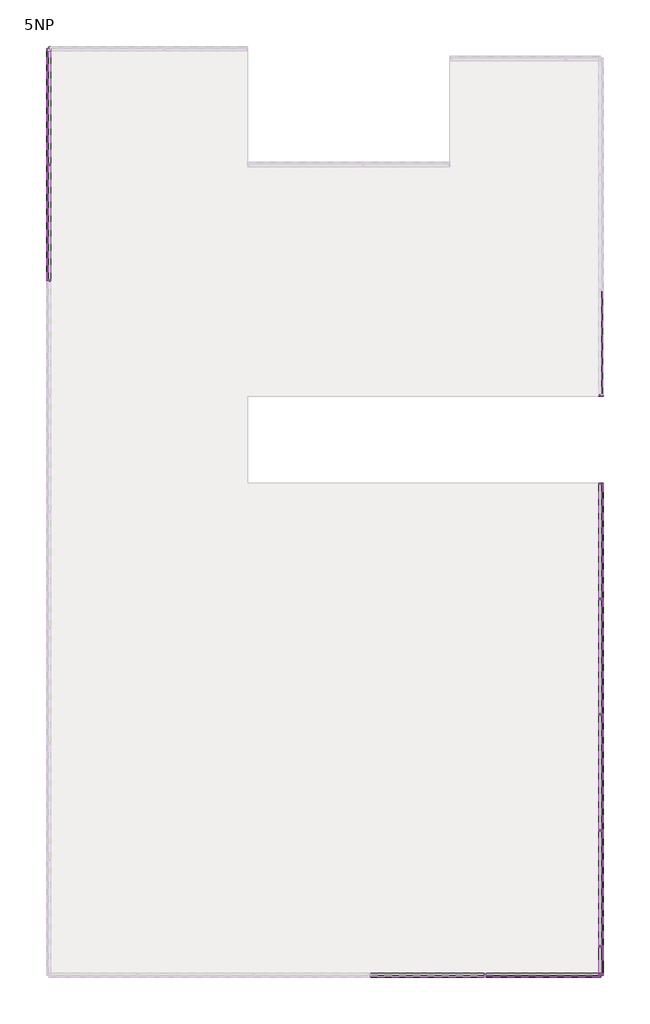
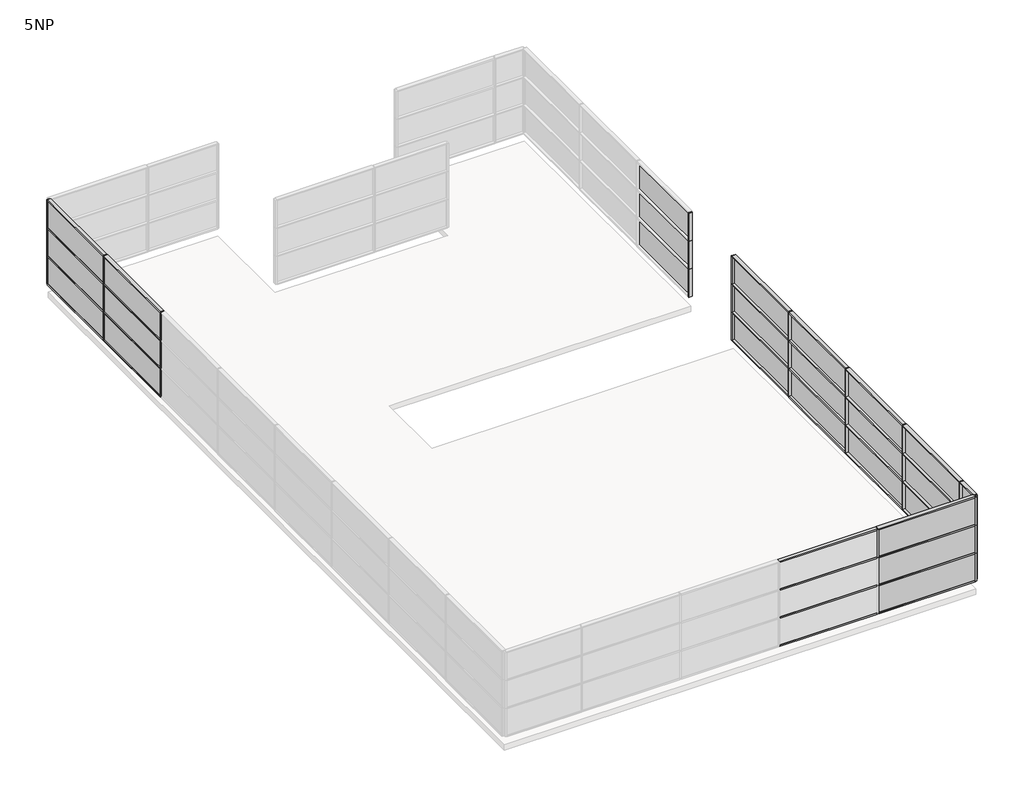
# One storey, part 2 of 3: 71 members, 27 plates.
"""IFC4 building model written with IfcOpenShell, lengths in millimetres."""

import ifcopenshell
import ifcopenshell.guid

model = None  # the IFC model being written
_history = None  # IfcOwnerHistory: only IFC2X3 demands one
_inside = {}  # id of a spatial element -> (the spatial element, [elements in it])
_under = {}  # id of a project, library or spatial element -> (it, [spatial elements below it])
_declared = {}  # id of a project -> (the project, [libraries it declares])
_typed = {}  # id of a type object -> (the type object, [elements of that type])
_made_of = {}  # id of a material, layer set ... -> (it, [elements and type objects made of it])


def new_model(schema):
    """Start an empty IFC model of exactly this schema.

    Asked for "IFC4X3", IfcOpenShell would pick the latest addendum, in which some entities
    have other attributes; the version numbers below select the first issue.
    IFC2X3 requires an IfcOwnerHistory on every rooted entity: one is made here for all.
    """
    global model, _history
    if schema == "IFC4X3":
        model = ifcopenshell.file(schema_version=(4, 3, 0, 0))
    else:
        model = ifcopenshell.file(schema=schema)
    _inside.clear()
    _under.clear()
    _declared.clear()
    _typed.clear()
    _made_of.clear()
    _history = None
    if model.schema == "IFC2X3":
        org = make("IfcOrganization", Name="unknown")
        user = make(
            "IfcPersonAndOrganization",
            ThePerson=make("IfcPerson", FamilyName="unknown"),
            TheOrganization=org,
        )
        app = make(
            "IfcApplication",
            ApplicationDeveloper=org,
            Version="unknown",
            ApplicationFullName="unknown",
            ApplicationIdentifier="unknown",
        )
        _history = make(
            "IfcOwnerHistory",
            OwningUser=user,
            OwningApplication=app,
            ChangeAction="ADDED",
            CreationDate=0,
        )
    return model


def make(cls, **values):
    """One entity of the class cls with the attributes given. An attribute that is None is left unset."""
    return model.create_entity(
        cls, **{name: value for name, value in values.items() if value is not None}
    )


def rooted(cls, **values):
    """An entity with a GlobalId (a new one), such as an element, a storey or a relation."""
    return make(cls, GlobalId=ifcopenshell.guid.new(), OwnerHistory=_history, **values)


def si_unit(unit_type, name, prefix=None):
    """IfcSIUnit, for example si_unit("LENGTHUNIT", "METRE", prefix="MILLI")."""
    return make("IfcSIUnit", UnitType=unit_type, Prefix=prefix, Name=name)


def assignment(units):
    """IfcUnitAssignment: the units of a project."""
    return None if units is None else make("IfcUnitAssignment", Units=units)


def point(xyz):
    """IfcCartesianPoint."""
    return None if xyz is None else make("IfcCartesianPoint", Coordinates=xyz)


def direction(xyz):
    """IfcDirection."""
    return None if xyz is None else make("IfcDirection", DirectionRatios=xyz)


def frame(location, z_axis=None, x_axis=None):
    """IfcAxis2Placement3D, a coordinate frame: its origin and axes. An axis left out is left unset."""
    return make(
        "IfcAxis2Placement3D",
        Location=point(location),
        Axis=direction(z_axis),
        RefDirection=direction(x_axis),
    )


def origin():
    """The frame at (0, 0, 0) with its axes left unset."""
    return frame((0.0, 0.0, 0.0))


def origin_with_axes():
    """The frame at (0, 0, 0) with the z axis (0, 0, 1) and the x axis (1, 0, 0) written out."""
    return frame((0.0, 0.0, 0.0), z_axis=(0.0, 0.0, 1.0), x_axis=(1.0, 0.0, 0.0))


def place(relative_to, where):
    """IfcLocalPlacement: puts the frame where relative to a parent placement (None: the world)."""
    return make(
        "IfcLocalPlacement", PlacementRelTo=relative_to, RelativePlacement=where
    )


def context(
    kind, dimensions, precision=None, world=None, true_north=None, identifier=None
):
    """IfcGeometricRepresentationContext, for example the 3D "Model" context."""
    return make(
        "IfcGeometricRepresentationContext",
        ContextIdentifier=identifier,
        ContextType=kind,
        CoordinateSpaceDimension=dimensions,
        Precision=precision,
        WorldCoordinateSystem=world,
        TrueNorth=true_north,
    )


def project(units=None, contexts=None):
    """IfcProject with its units and contexts."""
    return rooted(
        "IfcProject",
        Name="project",
        RepresentationContexts=contexts,
        UnitsInContext=assignment(units),
    )


def spatial(cls, under=None, at=None, **own):
    """A site, building, storey or space (cls), placed at a placement, below another one or the project."""
    s = rooted(cls, ObjectPlacement=at, **own)
    if under is not None:
        _under.setdefault(under.id(), (under, []))[1].append(s)
    return s


def polyline(points):
    """IfcPolyline through the points."""
    return make("IfcPolyline", Points=[point(p) for p in points])


def outline(outer, holes=None, kind="AREA"):
    """IfcArbitraryClosedProfileDef: a profile drawn as a closed curve; with holes, ...WithVoids."""
    if holes is None:
        return make("IfcArbitraryClosedProfileDef", ProfileType=kind, OuterCurve=outer)
    return make(
        "IfcArbitraryProfileDefWithVoids",
        ProfileType=kind,
        OuterCurve=outer,
        InnerCurves=holes,
    )


def extrude(swept, where, along, depth):
    """IfcExtrudedAreaSolid: the profile swept, set in the frame where, extruded along a direction by depth."""
    return make(
        "IfcExtrudedAreaSolid",
        SweptArea=swept,
        Position=where,
        ExtrudedDirection=direction(along),
        Depth=depth,
    )


def shape(context_of_items, identifier, shape_type, items):
    """IfcShapeRepresentation: the items that make up one representation, for example the "Body"."""
    return make(
        "IfcShapeRepresentation",
        ContextOfItems=context_of_items,
        RepresentationIdentifier=identifier,
        RepresentationType=shape_type,
        Items=items,
    )


def source(mapping_origin, context_of_items, identifier, shape_type, items):
    """IfcRepresentationMap: a shape defined once, which mapped items show again and again."""
    return make(
        "IfcRepresentationMap",
        MappingOrigin=mapping_origin,
        MappedRepresentation=shape(context_of_items, identifier, shape_type, items),
    )


def transform(
    local_origin,
    x_axis=None,
    y_axis=None,
    z_axis=None,
    scale=None,
    scale2=None,
    scale3=None,
    uniform=True,
):
    """IfcCartesianTransformationOperator3D, or its non-uniform kind. x_axis, y_axis, z_axis: its Axis1, 2, 3."""
    if uniform:
        return make(
            "IfcCartesianTransformationOperator3D",
            Axis1=direction(x_axis),
            Axis2=direction(y_axis),
            LocalOrigin=point(local_origin),
            Scale=scale,
            Axis3=direction(z_axis),
        )
    return make(
        "IfcCartesianTransformationOperator3DnonUniform",
        Axis1=direction(x_axis),
        Axis2=direction(y_axis),
        LocalOrigin=point(local_origin),
        Scale=scale,
        Axis3=direction(z_axis),
        Scale2=scale2,
        Scale3=scale3,
    )


def mapped(mapping_source, mapping_target):
    """IfcMappedItem: shows the shape of a source again, moved by a transform."""
    return make(
        "IfcMappedItem", MappingSource=mapping_source, MappingTarget=mapping_target
    )


def made_of(thing, what):
    """Note that an element or type object is made of a material, layer set ...; save() writes the relation."""
    if what is not None:
        _made_of.setdefault(what.id(), (what, []))[1].append(thing)
    return thing


def element(
    cls,
    number,
    at=None,
    inside=None,
    cuts=None,
    type_object=None,
    material=None,
    context=None,
    identifier="Body",
    shape_type=None,
    held_by="IfcProductDefinitionShape",
    body=None,
    shapes=None,
    **own,
):
    """One element of the class cls, such as IfcWall. Its Tag is "e" and its number.

    at: its placement. inside: the storey or other place that contains it. cuts: it is an
    opening in that element (IfcRelVoidsElement). A single representation is given by context,
    identifier, shape_type and body (its items); several are given by shapes. held_by: the class
    of the entity that holds the representations. save() writes the other relations.
    """
    e = rooted(cls, Tag="e%d" % number, ObjectPlacement=at, **own)
    if body is not None:
        shapes = [shape(context, identifier, shape_type, body)]
    if shapes is not None:
        e.Representation = make(held_by, Representations=shapes)
    if inside is not None:
        _inside.setdefault(inside.id(), (inside, []))[1].append(e)
    if cuts is not None:
        rooted(
            "IfcRelVoidsElement", RelatingBuildingElement=cuts, RelatedOpeningElement=e
        )
    if type_object is not None:
        _typed.setdefault(type_object.id(), (type_object, []))[1].append(e)
    return made_of(e, material)


def aggregate(whole, parts):
    """IfcRelAggregates: a whole, such as a stair, and the parts it consists of."""
    return rooted("IfcRelAggregates", RelatingObject=whole, RelatedObjects=parts)


def save(model, path):
    """Write the relations noted so far, then the file.

    IfcRelAggregates (storeys below a building ...), IfcRelContainedInSpatialStructure (elements
    in a storey), IfcRelDefinesByType, IfcRelAssociatesMaterial and IfcRelDeclares: one each for
    every whole, place, type object, material and project.
    """
    for whole, parts in _under.values():
        aggregate(whole, parts)
    for where, things in _inside.values():
        rooted(
            "IfcRelContainedInSpatialStructure",
            RelatedElements=things,
            RelatingStructure=where,
        )
    for kind, things in _typed.values():
        rooted("IfcRelDefinesByType", RelatedObjects=things, RelatingType=kind)
    for what, things in _made_of.values():
        rooted("IfcRelAssociatesMaterial", RelatedObjects=things, RelatingMaterial=what)
    for by, libraries in _declared.values():
        rooted("IfcRelDeclares", RelatingContext=by, RelatedDefinitions=libraries)
    model.write(path)


def rectangular_mullion_50_x_150mm_d99dc9be(model_context):
    return source(origin(), model_context, "Body", "SweptSolid", [
        extrude(outline(polyline([(25.0, 75.0), (25.0, -75.0), (-25.0, -75.0), (-25.0, 75.0), (25.0, 75.0)])), frame((0.0, 0.0, -1200.0), z_axis=(0.0, 0.0, 1.0), x_axis=(1.0, 0.0, 0.0)), (0.0, 0.0, 1.0), 1200.0),
    ])


def rectangular_mullion_50_x_150mm_6588f46c(model_context):
    return source(origin(), model_context, "Body", "SweptSolid", [
        extrude(outline(polyline([(0.0, 75.0), (0.0, -75.0), (-50.0, -75.0), (-50.0, 75.0), (0.0, 75.0)])), frame((0.0, 0.0, -1200.0), z_axis=(0.0, 0.0, 1.0), x_axis=(1.0, 0.0, 0.0)), (0.0, 0.0, 1.0), 1200.0),
    ])


def rectangular_mullion_50_x_150mm_a037c29c(model_context):
    return source(origin(), model_context, "Body", "SweptSolid", [
        extrude(outline(polyline([(25.0, 75.0), (25.0, -75.0), (-25.0, -75.0), (-25.0, 75.0), (25.0, 75.0)])), frame((0.0, 0.0, -3950.0), z_axis=(0.0, 0.0, 1.0), x_axis=(1.0, 0.0, 0.0)), (0.0, 0.0, 1.0), 3950.0),
    ])


def rectangular_mullion_50_x_150mm_c2546fd4(model_context):
    return source(origin(), model_context, "Body", "SweptSolid", [
        extrude(outline(polyline([(25.0, 75.0), (25.0, -75.0), (-25.0, -75.0), (-25.0, 75.0), (25.0, 75.0)])), frame((0.0, 0.0, -3925.0), z_axis=(0.0, 0.0, 1.0), x_axis=(1.0, 0.0, 0.0)), (0.0, 0.0, 1.0), 3925.0),
    ])


def rectangular_mullion_50_x_150mm_116cff39(model_context):
    return source(origin(), model_context, "Body", "SweptSolid", [
        extrude(outline(polyline([(25.0, 75.0), (25.0, -75.0), (-25.0, -75.0), (-25.0, 75.0), (25.0, 75.0)])), frame((0.0, 0.0, -925.0), z_axis=(0.0, 0.0, 1.0), x_axis=(1.0, 0.0, 0.0)), (0.0, 0.0, 1.0), 925.0),
    ])


def system_panel_glazed_8e9402eb(model_context):
    return source(origin(), model_context, "Body", "SweptSolid", [
        extrude(outline(polyline([(1962.5, 24.5), (-1962.5, 24.5), (-1962.5, 49.5), (1962.5, 49.5), (1962.5, 24.5)])), origin_with_axes(), (0.0, 0.0, 1.0), 1150.0),
    ])


def system_panel_glazed_89ac83a7(model_context):
    return source(origin(), model_context, "Body", "SweptSolid", [
        extrude(outline(polyline([(1975.0, 24.5), (-1975.0, 24.5), (-1975.0, 49.5), (1975.0, 49.5), (1975.0, 24.5)])), origin_with_axes(), (0.0, 0.0, 1.0), 1150.0),
    ])


def system_panel_glazed_5566c609(model_context):
    return source(origin(), model_context, "Body", "SweptSolid", [
        extrude(outline(polyline([(1794.1857925, 24.5), (-1794.1857925, 24.5), (-1794.1857925, 49.5), (1794.1857925, 49.5), (1794.1857925, 24.5)])), origin_with_axes(), (0.0, 0.0, 1.0), 1150.0),
    ])


def system_panel_glazed_8c18451d(model_context):
    return source(origin(), model_context, "Body", "SweptSolid", [
        extrude(outline(polyline([(462.5, 24.5), (-462.5, 24.5), (-462.5, 49.5), (462.5, 49.5), (462.5, 24.5)])), origin_with_axes(), (0.0, 0.0, 1.0), 1150.0),
    ])


model = new_model("IFC4")

# Units and contexts
model_context = context("Model", 3, world=origin())
ifc_project = project(units=[si_unit("LENGTHUNIT", "METRE", prefix="MILLI")], contexts=[model_context])

# Site, building, storey
site = spatial("IfcSite", under=ifc_project)
building = spatial("IfcBuilding", under=site)
storey = spatial("IfcBuildingStorey", under=building, Name="5NP", Elevation=20000.0)

# Members
placement = place(None, origin())
rectangular_mullion_50_x_150mm_shape = rectangular_mullion_50_x_150mm_d99dc9be(model_context)
element("IfcMember", 1, ObjectType="Rectangular Mullion : 50 x 150mm", at=placement, inside=storey, context=model_context, shape_type="MappedRepresentation", body=[
    mapped(rectangular_mullion_50_x_150mm_shape, transform((13503.2660975, -10624.0160434, 21600.0), x_axis=(0.0, -1.0, 0.0), y_axis=(1.0, 0.0, 0.0), z_axis=(0.0, 0.0, 1.0))),
])
element("IfcMember", 2, ObjectType="Rectangular Mullion : 50 x 150mm", at=placement, inside=storey, context=model_context, shape_type="MappedRepresentation", body=[
    mapped(rectangular_mullion_50_x_150mm_shape, transform((13503.2660975, -10624.0160434, 22800.0), x_axis=(0.0, -1.0, 0.0), y_axis=(1.0, 0.0, 0.0), z_axis=(0.0, 0.0, 1.0))),
])
element("IfcMember", 3, ObjectType="Rectangular Mullion : 50 x 150mm", at=placement, inside=storey, context=model_context, shape_type="MappedRepresentation", body=[
    mapped(rectangular_mullion_50_x_150mm_shape, transform((13503.2660975, -10624.0160434, 24000.0), x_axis=(0.0, -1.0, 0.0), y_axis=(1.0, 0.0, 0.0), z_axis=(0.0, 0.0, 1.0))),
])
element("IfcMember", 4, ObjectType="Rectangular Mullion : 50 x 150mm", at=placement, inside=storey, context=model_context, shape_type="MappedRepresentation", body=[
    mapped(rectangular_mullion_50_x_150mm_shape, transform((13503.2660975, -14624.0160434, 21600.0), x_axis=(0.0, -1.0, 0.0), y_axis=(1.0, 0.0, 0.0), z_axis=(0.0, 0.0, 1.0))),
])
element("IfcMember", 5, ObjectType="Rectangular Mullion : 50 x 150mm", at=placement, inside=storey, context=model_context, shape_type="MappedRepresentation", body=[
    mapped(rectangular_mullion_50_x_150mm_shape, transform((13503.2660975, -14624.0160434, 22800.0), x_axis=(0.0, -1.0, 0.0), y_axis=(1.0, 0.0, 0.0), z_axis=(0.0, 0.0, 1.0))),
])
element("IfcMember", 6, ObjectType="Rectangular Mullion : 50 x 150mm", at=placement, inside=storey, context=model_context, shape_type="MappedRepresentation", body=[
    mapped(rectangular_mullion_50_x_150mm_shape, transform((13503.2660975, -14624.0160434, 24000.0), x_axis=(0.0, -1.0, 0.0), y_axis=(1.0, 0.0, 0.0), z_axis=(0.0, 0.0, 1.0))),
])
element("IfcMember", 7, ObjectType="Rectangular Mullion : 50 x 150mm", at=placement, inside=storey, context=model_context, shape_type="MappedRepresentation", body=[
    mapped(rectangular_mullion_50_x_150mm_shape, transform((13503.2660975, -18624.0160434, 21600.0), x_axis=(0.0, -1.0, 0.0), y_axis=(1.0, 0.0, 0.0), z_axis=(0.0, 0.0, 1.0))),
])
element("IfcMember", 8, ObjectType="Rectangular Mullion : 50 x 150mm", at=placement, inside=storey, context=model_context, shape_type="MappedRepresentation", body=[
    mapped(rectangular_mullion_50_x_150mm_shape, transform((13503.2660975, -18624.0160434, 22800.0), x_axis=(0.0, -1.0, 0.0), y_axis=(1.0, 0.0, 0.0), z_axis=(0.0, 0.0, 1.0))),
])
element("IfcMember", 9, ObjectType="Rectangular Mullion : 50 x 150mm", at=placement, inside=storey, context=model_context, shape_type="MappedRepresentation", body=[
    mapped(rectangular_mullion_50_x_150mm_shape, transform((13503.2660975, -18624.0160434, 24000.0), x_axis=(0.0, -1.0, 0.0), y_axis=(1.0, 0.0, 0.0), z_axis=(0.0, 0.0, 1.0))),
])
element("IfcMember", 10, ObjectType="Rectangular Mullion : 50 x 150mm", at=placement, inside=storey, context=model_context, shape_type="MappedRepresentation", body=[
    mapped(rectangular_mullion_50_x_150mm_shape, transform((13503.2660975, -22624.0160434, 21600.0), x_axis=(0.0, -1.0, 0.0), y_axis=(1.0, 0.0, 0.0), z_axis=(0.0, 0.0, 1.0))),
])
element("IfcMember", 11, ObjectType="Rectangular Mullion : 50 x 150mm", at=placement, inside=storey, context=model_context, shape_type="MappedRepresentation", body=[
    mapped(rectangular_mullion_50_x_150mm_shape, transform((13503.2660975, -22624.0160434, 22800.0), x_axis=(0.0, -1.0, 0.0), y_axis=(1.0, 0.0, 0.0), z_axis=(0.0, 0.0, 1.0))),
])
element("IfcMember", 12, ObjectType="Rectangular Mullion : 50 x 150mm", at=placement, inside=storey, context=model_context, shape_type="MappedRepresentation", body=[
    mapped(rectangular_mullion_50_x_150mm_shape, transform((13503.2660975, -22624.0160434, 24000.0), x_axis=(0.0, -1.0, 0.0), y_axis=(1.0, 0.0, 0.0), z_axis=(0.0, 0.0, 1.0))),
])
element("IfcMember", 13, ObjectType="Rectangular Mullion : 50 x 150mm", at=placement, inside=storey, context=model_context, shape_type="MappedRepresentation", body=[
    mapped(rectangular_mullion_50_x_150mm_shape, transform((9503.2660975, -23624.0160434, 24000.0), x_axis=(-1.0, 0.0, 0.0), y_axis=(0.0, -1.0, 0.0), z_axis=(0.0, 0.0, 1.0))),
])
element("IfcMember", 14, ObjectType="Rectangular Mullion : 50 x 150mm", at=placement, inside=storey, context=model_context, shape_type="MappedRepresentation", body=[
    mapped(rectangular_mullion_50_x_150mm_shape, transform((-5587.173406, 375.9839566, 21600.0), x_axis=(0.0, 1.0, 0.0), y_axis=(-1.0, 0.0, 0.0), z_axis=(0.0, 0.0, 1.0))),
])
element("IfcMember", 15, ObjectType="Rectangular Mullion : 50 x 150mm", at=placement, inside=storey, context=model_context, shape_type="MappedRepresentation", body=[
    mapped(rectangular_mullion_50_x_150mm_shape, transform((-5587.173406, 375.9839566, 22800.0), x_axis=(0.0, 1.0, 0.0), y_axis=(-1.0, 0.0, 0.0), z_axis=(0.0, 0.0, 1.0))),
])
element("IfcMember", 16, ObjectType="Rectangular Mullion : 50 x 150mm", at=placement, inside=storey, context=model_context, shape_type="MappedRepresentation", body=[
    mapped(rectangular_mullion_50_x_150mm_shape, transform((-5587.173406, 375.9839566, 24000.0), x_axis=(0.0, 1.0, 0.0), y_axis=(-1.0, 0.0, 0.0), z_axis=(0.0, 0.0, 1.0))),
])
element("IfcMember", 17, ObjectType="Rectangular Mullion : 50 x 150mm", at=placement, inside=storey, context=model_context, shape_type="MappedRepresentation", body=[
    mapped(rectangular_mullion_50_x_150mm_shape, transform((-5587.173406, 4375.9839566, 21600.0), x_axis=(0.0, 1.0, 0.0), y_axis=(-1.0, 0.0, 0.0), z_axis=(0.0, 0.0, 1.0))),
])
element("IfcMember", 18, ObjectType="Rectangular Mullion : 50 x 150mm", at=placement, inside=storey, context=model_context, shape_type="MappedRepresentation", body=[
    mapped(rectangular_mullion_50_x_150mm_shape, transform((-5587.173406, 4375.9839566, 22800.0), x_axis=(0.0, 1.0, 0.0), y_axis=(-1.0, 0.0, 0.0), z_axis=(0.0, 0.0, 1.0))),
])
element("IfcMember", 19, ObjectType="Rectangular Mullion : 50 x 150mm", at=placement, inside=storey, context=model_context, shape_type="MappedRepresentation", body=[
    mapped(rectangular_mullion_50_x_150mm_shape, transform((-5587.173406, 4375.9839566, 24000.0), x_axis=(0.0, 1.0, 0.0), y_axis=(-1.0, 0.0, 0.0), z_axis=(0.0, 0.0, 1.0))),
])
rectangular_mullion_50_x_150mm_2_shape = rectangular_mullion_50_x_150mm_6588f46c(model_context)
element("IfcMember", 20, ObjectType="Rectangular Mullion : 50 x 150mm", at=placement, inside=storey, context=model_context, shape_type="MappedRepresentation", body=[
    mapped(rectangular_mullion_50_x_150mm_2_shape, transform((13503.2660975, -3624.0160434, 24000.0), x_axis=(0.0, -1.0, 0.0), y_axis=(1.0, 0.0, 0.0), z_axis=(0.0, 0.0, 1.0))),
])
element("IfcMember", 21, ObjectType="Rectangular Mullion : 50 x 150mm", at=placement, inside=storey, context=model_context, shape_type="MappedRepresentation", body=[
    mapped(rectangular_mullion_50_x_150mm_2_shape, transform((13503.2660975, -3624.0160434, 22800.0), x_axis=(0.0, -1.0, 0.0), y_axis=(1.0, 0.0, 0.0), z_axis=(0.0, 0.0, 1.0))),
])
element("IfcMember", 22, ObjectType="Rectangular Mullion : 50 x 150mm", at=placement, inside=storey, context=model_context, shape_type="MappedRepresentation", body=[
    mapped(rectangular_mullion_50_x_150mm_2_shape, transform((13503.2660975, -3624.0160434, 21600.0), x_axis=(0.0, -1.0, 0.0), y_axis=(1.0, 0.0, 0.0), z_axis=(0.0, 0.0, 1.0))),
])
element("IfcMember", 23, ObjectType="Rectangular Mullion : 50 x 150mm", at=placement, inside=storey, context=model_context, shape_type="MappedRepresentation", body=[
    mapped(rectangular_mullion_50_x_150mm_2_shape, transform((13503.2660975, -23624.0160434, 21600.0), x_axis=(0.0, -1.0, 0.0), y_axis=(1.0, 0.0, 0.0), z_axis=(0.0, 0.0, 1.0))),
])
element("IfcMember", 24, ObjectType="Rectangular Mullion : 50 x 150mm", at=placement, inside=storey, context=model_context, shape_type="MappedRepresentation", body=[
    mapped(rectangular_mullion_50_x_150mm_2_shape, transform((13503.2660975, -23624.0160434, 22800.0), x_axis=(0.0, -1.0, 0.0), y_axis=(1.0, 0.0, 0.0), z_axis=(0.0, 0.0, 1.0))),
])
element("IfcMember", 25, ObjectType="Rectangular Mullion : 50 x 150mm", at=placement, inside=storey, context=model_context, shape_type="MappedRepresentation", body=[
    mapped(rectangular_mullion_50_x_150mm_2_shape, transform((13503.2660975, -23624.0160434, 24000.0), x_axis=(0.0, -1.0, 0.0), y_axis=(1.0, 0.0, 0.0), z_axis=(0.0, 0.0, 1.0))),
])
element("IfcMember", 26, ObjectType="Rectangular Mullion : 50 x 150mm", at=placement, inside=storey, context=model_context, shape_type="MappedRepresentation", body=[
    mapped(rectangular_mullion_50_x_150mm_2_shape, transform((-5587.173406, 8375.9839566, 21600.0), x_axis=(0.0, 1.0, 0.0), y_axis=(-1.0, 0.0, 0.0), z_axis=(0.0, 0.0, 1.0))),
])
element("IfcMember", 27, ObjectType="Rectangular Mullion : 50 x 150mm", at=placement, inside=storey, context=model_context, shape_type="MappedRepresentation", body=[
    mapped(rectangular_mullion_50_x_150mm_2_shape, transform((-5587.173406, 8375.9839566, 22800.0), x_axis=(0.0, 1.0, 0.0), y_axis=(-1.0, 0.0, 0.0), z_axis=(0.0, 0.0, 1.0))),
])
element("IfcMember", 28, ObjectType="Rectangular Mullion : 50 x 150mm", at=placement, inside=storey, context=model_context, shape_type="MappedRepresentation", body=[
    mapped(rectangular_mullion_50_x_150mm_2_shape, transform((-5587.173406, 8375.9839566, 24000.0), x_axis=(0.0, 1.0, 0.0), y_axis=(-1.0, 0.0, 0.0), z_axis=(0.0, 0.0, 1.0))),
])
rectangular_mullion_50_x_150mm_3_shape = rectangular_mullion_50_x_150mm_a037c29c(model_context)
element("IfcMember", 29, ObjectType="Rectangular Mullion : 50 x 150mm", at=placement, inside=storey, context=model_context, shape_type="MappedRepresentation", body=[
    mapped(rectangular_mullion_50_x_150mm_3_shape, transform((13503.2660975, -18649.0160434, 22800.0), x_axis=(0.0, 0.0, 1.0), y_axis=(1.0, 0.0, 0.0), z_axis=(0.0, 1.0, 0.0))),
])
element("IfcMember", 30, ObjectType="Rectangular Mullion : 50 x 150mm", at=placement, inside=storey, context=model_context, shape_type="MappedRepresentation", body=[
    mapped(rectangular_mullion_50_x_150mm_3_shape, transform((13503.2660975, -10649.0160434, 24000.0), x_axis=(0.0, 0.0, 1.0), y_axis=(1.0, 0.0, 0.0), z_axis=(0.0, 1.0, 0.0))),
])
element("IfcMember", 31, ObjectType="Rectangular Mullion : 50 x 150mm", at=placement, inside=storey, context=model_context, shape_type="MappedRepresentation", body=[
    mapped(rectangular_mullion_50_x_150mm_3_shape, transform((13503.2660975, -14649.0160434, 24000.0), x_axis=(0.0, 0.0, 1.0), y_axis=(1.0, 0.0, 0.0), z_axis=(0.0, 1.0, 0.0))),
])
element("IfcMember", 32, ObjectType="Rectangular Mullion : 50 x 150mm", at=placement, inside=storey, context=model_context, shape_type="MappedRepresentation", body=[
    mapped(rectangular_mullion_50_x_150mm_3_shape, transform((13503.2660975, -18649.0160434, 24000.0), x_axis=(0.0, 0.0, 1.0), y_axis=(1.0, 0.0, 0.0), z_axis=(0.0, 1.0, 0.0))),
])
element("IfcMember", 33, ObjectType="Rectangular Mullion : 50 x 150mm", at=placement, inside=storey, context=model_context, shape_type="MappedRepresentation", body=[
    mapped(rectangular_mullion_50_x_150mm_3_shape, transform((13503.2660975, -10649.0160434, 20400.0), x_axis=(0.0, 0.0, 1.0), y_axis=(1.0, 0.0, 0.0), z_axis=(0.0, 1.0, 0.0))),
])
element("IfcMember", 34, ObjectType="Rectangular Mullion : 50 x 150mm", at=placement, inside=storey, context=model_context, shape_type="MappedRepresentation", body=[
    mapped(rectangular_mullion_50_x_150mm_3_shape, transform((13503.2660975, -14649.0160434, 20400.0), x_axis=(0.0, 0.0, 1.0), y_axis=(1.0, 0.0, 0.0), z_axis=(0.0, 1.0, 0.0))),
])
element("IfcMember", 35, ObjectType="Rectangular Mullion : 50 x 150mm", at=placement, inside=storey, context=model_context, shape_type="MappedRepresentation", body=[
    mapped(rectangular_mullion_50_x_150mm_3_shape, transform((13503.2660975, -18649.0160434, 20400.0), x_axis=(0.0, 0.0, 1.0), y_axis=(1.0, 0.0, 0.0), z_axis=(0.0, 1.0, 0.0))),
])
element("IfcMember", 36, ObjectType="Rectangular Mullion : 50 x 150mm", at=placement, inside=storey, context=model_context, shape_type="MappedRepresentation", body=[
    mapped(rectangular_mullion_50_x_150mm_3_shape, transform((13503.2660975, -10649.0160434, 21600.0), x_axis=(0.0, 0.0, 1.0), y_axis=(1.0, 0.0, 0.0), z_axis=(0.0, 1.0, 0.0))),
])
element("IfcMember", 37, ObjectType="Rectangular Mullion : 50 x 150mm", at=placement, inside=storey, context=model_context, shape_type="MappedRepresentation", body=[
    mapped(rectangular_mullion_50_x_150mm_3_shape, transform((13503.2660975, -14649.0160434, 21600.0), x_axis=(0.0, 0.0, 1.0), y_axis=(1.0, 0.0, 0.0), z_axis=(0.0, 1.0, 0.0))),
])
element("IfcMember", 38, ObjectType="Rectangular Mullion : 50 x 150mm", at=placement, inside=storey, context=model_context, shape_type="MappedRepresentation", body=[
    mapped(rectangular_mullion_50_x_150mm_3_shape, transform((13503.2660975, -18649.0160434, 21600.0), x_axis=(0.0, 0.0, 1.0), y_axis=(1.0, 0.0, 0.0), z_axis=(0.0, 1.0, 0.0))),
])
element("IfcMember", 39, ObjectType="Rectangular Mullion : 50 x 150mm", at=placement, inside=storey, context=model_context, shape_type="MappedRepresentation", body=[
    mapped(rectangular_mullion_50_x_150mm_3_shape, transform((13503.2660975, -10649.0160434, 22800.0), x_axis=(0.0, 0.0, 1.0), y_axis=(1.0, 0.0, 0.0), z_axis=(0.0, 1.0, 0.0))),
])
element("IfcMember", 40, ObjectType="Rectangular Mullion : 50 x 150mm", at=placement, inside=storey, context=model_context, shape_type="MappedRepresentation", body=[
    mapped(rectangular_mullion_50_x_150mm_3_shape, transform((13503.2660975, -14649.0160434, 22800.0), x_axis=(0.0, 0.0, 1.0), y_axis=(1.0, 0.0, 0.0), z_axis=(0.0, 1.0, 0.0))),
])
element("IfcMember", 41, ObjectType="Rectangular Mullion : 50 x 150mm", at=placement, inside=storey, context=model_context, shape_type="MappedRepresentation", body=[
    mapped(rectangular_mullion_50_x_150mm_3_shape, transform((9478.2660975, -23624.0160434, 20400.0), x_axis=(0.0, 0.0, 1.0), y_axis=(0.0, -1.0, 0.0), z_axis=(1.0, 0.0, 0.0))),
])
element("IfcMember", 42, ObjectType="Rectangular Mullion : 50 x 150mm", at=placement, inside=storey, context=model_context, shape_type="MappedRepresentation", body=[
    mapped(rectangular_mullion_50_x_150mm_3_shape, transform((9478.2660975, -23624.0160434, 21600.0), x_axis=(0.0, 0.0, 1.0), y_axis=(0.0, -1.0, 0.0), z_axis=(1.0, 0.0, 0.0))),
])
element("IfcMember", 43, ObjectType="Rectangular Mullion : 50 x 150mm", at=placement, inside=storey, context=model_context, shape_type="MappedRepresentation", body=[
    mapped(rectangular_mullion_50_x_150mm_3_shape, transform((9478.2660975, -23624.0160434, 22800.0), x_axis=(0.0, 0.0, 1.0), y_axis=(0.0, -1.0, 0.0), z_axis=(1.0, 0.0, 0.0))),
])
element("IfcMember", 44, ObjectType="Rectangular Mullion : 50 x 150mm", at=placement, inside=storey, context=model_context, shape_type="MappedRepresentation", body=[
    mapped(rectangular_mullion_50_x_150mm_3_shape, transform((9478.2660975, -23624.0160434, 24000.0), x_axis=(0.0, 0.0, 1.0), y_axis=(0.0, -1.0, 0.0), z_axis=(1.0, 0.0, 0.0))),
])
element("IfcMember", 45, ObjectType="Rectangular Mullion : 50 x 150mm", at=placement, inside=storey, context=model_context, shape_type="MappedRepresentation", body=[
    mapped(rectangular_mullion_50_x_150mm_3_shape, transform((-5587.173406, 400.9839566, 20400.0), x_axis=(0.0, 0.0, 1.0), y_axis=(-1.0, 0.0, 0.0), z_axis=(0.0, -1.0, 0.0))),
])
element("IfcMember", 46, ObjectType="Rectangular Mullion : 50 x 150mm", at=placement, inside=storey, context=model_context, shape_type="MappedRepresentation", body=[
    mapped(rectangular_mullion_50_x_150mm_3_shape, transform((-5587.173406, 400.9839566, 21600.0), x_axis=(0.0, 0.0, 1.0), y_axis=(-1.0, 0.0, 0.0), z_axis=(0.0, -1.0, 0.0))),
])
element("IfcMember", 47, ObjectType="Rectangular Mullion : 50 x 150mm", at=placement, inside=storey, context=model_context, shape_type="MappedRepresentation", body=[
    mapped(rectangular_mullion_50_x_150mm_3_shape, transform((-5587.173406, 400.9839566, 22800.0), x_axis=(0.0, 0.0, 1.0), y_axis=(-1.0, 0.0, 0.0), z_axis=(0.0, -1.0, 0.0))),
])
element("IfcMember", 48, ObjectType="Rectangular Mullion : 50 x 150mm", at=placement, inside=storey, context=model_context, shape_type="MappedRepresentation", body=[
    mapped(rectangular_mullion_50_x_150mm_3_shape, transform((-5587.173406, 400.9839566, 24000.0), x_axis=(0.0, 0.0, 1.0), y_axis=(-1.0, 0.0, 0.0), z_axis=(0.0, -1.0, 0.0))),
])
rectangular_mullion_50_x_150mm_4_shape = rectangular_mullion_50_x_150mm_c2546fd4(model_context)
element("IfcMember", 49, ObjectType="Rectangular Mullion : 50 x 150mm", at=placement, inside=storey, context=model_context, shape_type="MappedRepresentation", body=[
    mapped(rectangular_mullion_50_x_150mm_4_shape, transform((13503.2660975, -6674.0160434, 24000.0), x_axis=(0.0, 0.0, 1.0), y_axis=(1.0, 0.0, 0.0), z_axis=(0.0, 1.0, 0.0))),
])
element("IfcMember", 50, ObjectType="Rectangular Mullion : 50 x 150mm", at=placement, inside=storey, context=model_context, shape_type="MappedRepresentation", body=[
    mapped(rectangular_mullion_50_x_150mm_4_shape, transform((13503.2660975, -6674.0160434, 20400.0), x_axis=(0.0, 0.0, 1.0), y_axis=(1.0, 0.0, 0.0), z_axis=(0.0, 1.0, 0.0))),
])
element("IfcMember", 51, ObjectType="Rectangular Mullion : 50 x 150mm", at=placement, inside=storey, context=model_context, shape_type="MappedRepresentation", body=[
    mapped(rectangular_mullion_50_x_150mm_4_shape, transform((13503.2660975, -6674.0160434, 21600.0), x_axis=(0.0, 0.0, 1.0), y_axis=(1.0, 0.0, 0.0), z_axis=(0.0, 1.0, 0.0))),
])
element("IfcMember", 52, ObjectType="Rectangular Mullion : 50 x 150mm", at=placement, inside=storey, context=model_context, shape_type="MappedRepresentation", body=[
    mapped(rectangular_mullion_50_x_150mm_4_shape, transform((13503.2660975, -6674.0160434, 22800.0), x_axis=(0.0, 0.0, 1.0), y_axis=(1.0, 0.0, 0.0), z_axis=(0.0, 1.0, 0.0))),
])
element("IfcMember", 53, ObjectType="Rectangular Mullion : 50 x 150mm", at=placement, inside=storey, context=model_context, shape_type="MappedRepresentation", body=[
    mapped(rectangular_mullion_50_x_150mm_4_shape, transform((13453.2660975, -23624.0160434, 20400.0), x_axis=(0.0, 0.0, 1.0), y_axis=(0.0, -1.0, 0.0), z_axis=(1.0, 0.0, 0.0))),
])
element("IfcMember", 54, ObjectType="Rectangular Mullion : 50 x 150mm", at=placement, inside=storey, context=model_context, shape_type="MappedRepresentation", body=[
    mapped(rectangular_mullion_50_x_150mm_4_shape, transform((13453.2660975, -23624.0160434, 21600.0), x_axis=(0.0, 0.0, 1.0), y_axis=(0.0, -1.0, 0.0), z_axis=(1.0, 0.0, 0.0))),
])
element("IfcMember", 55, ObjectType="Rectangular Mullion : 50 x 150mm", at=placement, inside=storey, context=model_context, shape_type="MappedRepresentation", body=[
    mapped(rectangular_mullion_50_x_150mm_4_shape, transform((13453.2660975, -23624.0160434, 22800.0), x_axis=(0.0, 0.0, 1.0), y_axis=(0.0, -1.0, 0.0), z_axis=(1.0, 0.0, 0.0))),
])
element("IfcMember", 56, ObjectType="Rectangular Mullion : 50 x 150mm", at=placement, inside=storey, context=model_context, shape_type="MappedRepresentation", body=[
    mapped(rectangular_mullion_50_x_150mm_4_shape, transform((13453.2660975, -23624.0160434, 24000.0), x_axis=(0.0, 0.0, 1.0), y_axis=(0.0, -1.0, 0.0), z_axis=(1.0, 0.0, 0.0))),
])
element("IfcMember", 57, ObjectType="Rectangular Mullion : 50 x 150mm", at=placement, inside=storey, context=model_context, shape_type="MappedRepresentation", body=[
    mapped(rectangular_mullion_50_x_150mm_4_shape, transform((-5587.173406, 4400.9839566, 20400.0), x_axis=(0.0, 0.0, 1.0), y_axis=(-1.0, 0.0, 0.0), z_axis=(0.0, -1.0, 0.0))),
])
element("IfcMember", 58, ObjectType="Rectangular Mullion : 50 x 150mm", at=placement, inside=storey, context=model_context, shape_type="MappedRepresentation", body=[
    mapped(rectangular_mullion_50_x_150mm_4_shape, transform((-5587.173406, 4400.9839566, 21600.0), x_axis=(0.0, 0.0, 1.0), y_axis=(-1.0, 0.0, 0.0), z_axis=(0.0, -1.0, 0.0))),
])
element("IfcMember", 59, ObjectType="Rectangular Mullion : 50 x 150mm", at=placement, inside=storey, context=model_context, shape_type="MappedRepresentation", body=[
    mapped(rectangular_mullion_50_x_150mm_4_shape, transform((-5587.173406, 4400.9839566, 22800.0), x_axis=(0.0, 0.0, 1.0), y_axis=(-1.0, 0.0, 0.0), z_axis=(0.0, -1.0, 0.0))),
])
element("IfcMember", 60, ObjectType="Rectangular Mullion : 50 x 150mm", at=placement, inside=storey, context=model_context, shape_type="MappedRepresentation", body=[
    mapped(rectangular_mullion_50_x_150mm_4_shape, transform((-5587.173406, 4400.9839566, 24000.0), x_axis=(0.0, 0.0, 1.0), y_axis=(-1.0, 0.0, 0.0), z_axis=(0.0, -1.0, 0.0))),
])
element("IfcMember", 61, ObjectType="Rectangular Mullion : 50 x 150mm", at=placement, inside=storey, context=model_context, shape_type="MappedRepresentation", body=[
    mapped(rectangular_mullion_50_x_150mm_2_shape, transform((13503.2660975, -6624.0160434, 20400.0), x_axis=(0.0, 1.0, 0.0), y_axis=(1.0, 0.0, 0.0), z_axis=(0.0, 0.0, -1.0))),
])
element("IfcMember", 62, ObjectType="Rectangular Mullion : 50 x 150mm", at=placement, inside=storey, context=model_context, shape_type="MappedRepresentation", body=[
    mapped(rectangular_mullion_50_x_150mm_2_shape, transform((13503.2660975, -6624.0160434, 21600.0), x_axis=(0.0, 1.0, 0.0), y_axis=(1.0, 0.0, 0.0), z_axis=(0.0, 0.0, -1.0))),
])
element("IfcMember", 63, ObjectType="Rectangular Mullion : 50 x 150mm", at=placement, inside=storey, context=model_context, shape_type="MappedRepresentation", body=[
    mapped(rectangular_mullion_50_x_150mm_2_shape, transform((13503.2660975, -6624.0160434, 22800.0), x_axis=(0.0, 1.0, 0.0), y_axis=(1.0, 0.0, 0.0), z_axis=(0.0, 0.0, -1.0))),
])
element("IfcMember", 64, ObjectType="Rectangular Mullion : 50 x 150mm", at=placement, inside=storey, context=model_context, shape_type="MappedRepresentation", body=[
    mapped(rectangular_mullion_50_x_150mm_2_shape, transform((13503.2660975, -23624.0160434, 20400.0), x_axis=(1.0, 0.0, 0.0), y_axis=(0.0, -1.0, 0.0), z_axis=(0.0, 0.0, -1.0))),
])
element("IfcMember", 65, ObjectType="Rectangular Mullion : 50 x 150mm", at=placement, inside=storey, context=model_context, shape_type="MappedRepresentation", body=[
    mapped(rectangular_mullion_50_x_150mm_2_shape, transform((13503.2660975, -23624.0160434, 21600.0), x_axis=(1.0, 0.0, 0.0), y_axis=(0.0, -1.0, 0.0), z_axis=(0.0, 0.0, -1.0))),
])
element("IfcMember", 66, ObjectType="Rectangular Mullion : 50 x 150mm", at=placement, inside=storey, context=model_context, shape_type="MappedRepresentation", body=[
    mapped(rectangular_mullion_50_x_150mm_2_shape, transform((13503.2660975, -23624.0160434, 22800.0), x_axis=(1.0, 0.0, 0.0), y_axis=(0.0, -1.0, 0.0), z_axis=(0.0, 0.0, -1.0))),
])
element("IfcMember", 67, ObjectType="Rectangular Mullion : 50 x 150mm", at=placement, inside=storey, context=model_context, shape_type="MappedRepresentation", body=[
    mapped(rectangular_mullion_50_x_150mm_2_shape, transform((-5587.173406, 8375.9839566, 20400.0), x_axis=(-1.0, 0.0, 0.0), y_axis=(0.0, 1.0, 0.0), z_axis=(0.0, 0.0, -1.0))),
])
rectangular_mullion_50_x_150mm_5_shape = rectangular_mullion_50_x_150mm_116cff39(model_context)
element("IfcMember", 68, ObjectType="Rectangular Mullion : 50 x 150mm", at=placement, inside=storey, context=model_context, shape_type="MappedRepresentation", body=[
    mapped(rectangular_mullion_50_x_150mm_5_shape, transform((13503.2660975, -22649.0160434, 22800.0), x_axis=(0.0, 0.0, 1.0), y_axis=(1.0, 0.0, 0.0), z_axis=(0.0, 1.0, 0.0))),
])
element("IfcMember", 69, ObjectType="Rectangular Mullion : 50 x 150mm", at=placement, inside=storey, context=model_context, shape_type="MappedRepresentation", body=[
    mapped(rectangular_mullion_50_x_150mm_5_shape, transform((13503.2660975, -22649.0160434, 24000.0), x_axis=(0.0, 0.0, 1.0), y_axis=(1.0, 0.0, 0.0), z_axis=(0.0, 1.0, 0.0))),
])
element("IfcMember", 70, ObjectType="Rectangular Mullion : 50 x 150mm", at=placement, inside=storey, context=model_context, shape_type="MappedRepresentation", body=[
    mapped(rectangular_mullion_50_x_150mm_5_shape, transform((13503.2660975, -22649.0160434, 20400.0), x_axis=(0.0, 0.0, 1.0), y_axis=(1.0, 0.0, 0.0), z_axis=(0.0, 1.0, 0.0))),
])
element("IfcMember", 71, ObjectType="Rectangular Mullion : 50 x 150mm", at=placement, inside=storey, context=model_context, shape_type="MappedRepresentation", body=[
    mapped(rectangular_mullion_50_x_150mm_5_shape, transform((13503.2660975, -22649.0160434, 21600.0), x_axis=(0.0, 0.0, 1.0), y_axis=(1.0, 0.0, 0.0), z_axis=(0.0, 1.0, 0.0))),
])

# Plates
system_panel_glazed_shape = system_panel_glazed_8e9402eb(model_context)
element("IfcPlate", 72, ObjectType="System Panel : Glazed", at=placement, inside=storey, context=model_context, shape_type="MappedRepresentation", body=[
    mapped(system_panel_glazed_shape, transform((-5587.173406, 6363.4839566, 20425.0), x_axis=(0.0, 1.0, 0.0), y_axis=(-1.0, 0.0, 0.0), z_axis=(0.0, 0.0, 1.0))),
])
element("IfcPlate", 73, ObjectType="System Panel : Glazed", at=placement, inside=storey, context=model_context, shape_type="MappedRepresentation", body=[
    mapped(system_panel_glazed_shape, transform((-5587.173406, 6363.4839566, 21625.0), x_axis=(0.0, 1.0, 0.0), y_axis=(-1.0, 0.0, 0.0), z_axis=(0.0, 0.0, 1.0))),
])
element("IfcPlate", 74, ObjectType="System Panel : Glazed", at=placement, inside=storey, context=model_context, shape_type="MappedRepresentation", body=[
    mapped(system_panel_glazed_shape, transform((11490.7660975, -23624.0160434, 20425.0), x_axis=(-1.0, 0.0, 0.0), y_axis=(0.0, -1.0, 0.0), z_axis=(0.0, 0.0, 1.0))),
])
element("IfcPlate", 75, ObjectType="System Panel : Glazed", at=placement, inside=storey, context=model_context, shape_type="MappedRepresentation", body=[
    mapped(system_panel_glazed_shape, transform((11490.7660975, -23624.0160434, 21625.0), x_axis=(-1.0, 0.0, 0.0), y_axis=(0.0, -1.0, 0.0), z_axis=(0.0, 0.0, 1.0))),
])
element("IfcPlate", 76, ObjectType="System Panel : Glazed", at=placement, inside=storey, context=model_context, shape_type="MappedRepresentation", body=[
    mapped(system_panel_glazed_shape, transform((13503.2660975, -8636.5160434, 20425.0), x_axis=(0.0, -1.0, 0.0), y_axis=(1.0, 0.0, 0.0), z_axis=(0.0, 0.0, 1.0))),
])
element("IfcPlate", 77, ObjectType="System Panel : Glazed", at=placement, inside=storey, context=model_context, shape_type="MappedRepresentation", body=[
    mapped(system_panel_glazed_shape, transform((13503.2660975, -8636.5160434, 21625.0), x_axis=(0.0, -1.0, 0.0), y_axis=(1.0, 0.0, 0.0), z_axis=(0.0, 0.0, 1.0))),
])
element("IfcPlate", 78, ObjectType="System Panel : Glazed", at=placement, inside=storey, context=model_context, shape_type="MappedRepresentation", body=[
    mapped(system_panel_glazed_shape, transform((-5587.173406, 6363.4839566, 22825.0), x_axis=(0.0, 1.0, 0.0), y_axis=(-1.0, 0.0, 0.0), z_axis=(0.0, 0.0, 1.0))),
])
element("IfcPlate", 79, ObjectType="System Panel : Glazed", at=placement, inside=storey, context=model_context, shape_type="MappedRepresentation", body=[
    mapped(system_panel_glazed_shape, transform((11490.7660975, -23624.0160434, 22825.0), x_axis=(-1.0, 0.0, 0.0), y_axis=(0.0, -1.0, 0.0), z_axis=(0.0, 0.0, 1.0))),
])
element("IfcPlate", 80, ObjectType="System Panel : Glazed", at=placement, inside=storey, context=model_context, shape_type="MappedRepresentation", body=[
    mapped(system_panel_glazed_shape, transform((13503.2660975, -8636.5160434, 22825.0), x_axis=(0.0, -1.0, 0.0), y_axis=(1.0, 0.0, 0.0), z_axis=(0.0, 0.0, 1.0))),
])
system_panel_glazed_2_shape = system_panel_glazed_89ac83a7(model_context)
element("IfcPlate", 81, ObjectType="System Panel : Glazed", at=placement, inside=storey, context=model_context, shape_type="MappedRepresentation", body=[
    mapped(system_panel_glazed_2_shape, transform((-5587.173406, 2375.9839566, 20425.0), x_axis=(0.0, 1.0, 0.0), y_axis=(-1.0, 0.0, 0.0), z_axis=(0.0, 0.0, 1.0))),
])
element("IfcPlate", 82, ObjectType="System Panel : Glazed", at=placement, inside=storey, context=model_context, shape_type="MappedRepresentation", body=[
    mapped(system_panel_glazed_2_shape, transform((-5587.173406, 2375.9839566, 21625.0), x_axis=(0.0, 1.0, 0.0), y_axis=(-1.0, 0.0, 0.0), z_axis=(0.0, 0.0, 1.0))),
])
element("IfcPlate", 83, ObjectType="System Panel : Glazed", at=placement, inside=storey, context=model_context, shape_type="MappedRepresentation", body=[
    mapped(system_panel_glazed_2_shape, transform((13503.2660975, -12624.0160434, 20425.0), x_axis=(0.0, -1.0, 0.0), y_axis=(1.0, 0.0, 0.0), z_axis=(0.0, 0.0, 1.0))),
])
element("IfcPlate", 84, ObjectType="System Panel : Glazed", at=placement, inside=storey, context=model_context, shape_type="MappedRepresentation", body=[
    mapped(system_panel_glazed_2_shape, transform((13503.2660975, -16624.0160434, 20425.0), x_axis=(0.0, -1.0, 0.0), y_axis=(1.0, 0.0, 0.0), z_axis=(0.0, 0.0, 1.0))),
])
element("IfcPlate", 85, ObjectType="System Panel : Glazed", at=placement, inside=storey, context=model_context, shape_type="MappedRepresentation", body=[
    mapped(system_panel_glazed_2_shape, transform((13503.2660975, -20624.0160434, 20425.0), x_axis=(0.0, -1.0, 0.0), y_axis=(1.0, 0.0, 0.0), z_axis=(0.0, 0.0, 1.0))),
])
element("IfcPlate", 86, ObjectType="System Panel : Glazed", at=placement, inside=storey, context=model_context, shape_type="MappedRepresentation", body=[
    mapped(system_panel_glazed_2_shape, transform((13503.2660975, -12624.0160434, 21625.0), x_axis=(0.0, -1.0, 0.0), y_axis=(1.0, 0.0, 0.0), z_axis=(0.0, 0.0, 1.0))),
])
element("IfcPlate", 87, ObjectType="System Panel : Glazed", at=placement, inside=storey, context=model_context, shape_type="MappedRepresentation", body=[
    mapped(system_panel_glazed_2_shape, transform((13503.2660975, -16624.0160434, 21625.0), x_axis=(0.0, -1.0, 0.0), y_axis=(1.0, 0.0, 0.0), z_axis=(0.0, 0.0, 1.0))),
])
element("IfcPlate", 88, ObjectType="System Panel : Glazed", at=placement, inside=storey, context=model_context, shape_type="MappedRepresentation", body=[
    mapped(system_panel_glazed_2_shape, transform((13503.2660975, -20624.0160434, 21625.0), x_axis=(0.0, -1.0, 0.0), y_axis=(1.0, 0.0, 0.0), z_axis=(0.0, 0.0, 1.0))),
])
element("IfcPlate", 89, ObjectType="System Panel : Glazed", at=placement, inside=storey, context=model_context, shape_type="MappedRepresentation", body=[
    mapped(system_panel_glazed_2_shape, transform((-5587.173406, 2375.9839566, 22825.0), x_axis=(0.0, 1.0, 0.0), y_axis=(-1.0, 0.0, 0.0), z_axis=(0.0, 0.0, 1.0))),
])
element("IfcPlate", 90, ObjectType="System Panel : Glazed", at=placement, inside=storey, context=model_context, shape_type="MappedRepresentation", body=[
    mapped(system_panel_glazed_2_shape, transform((13503.2660975, -12624.0160434, 22825.0), x_axis=(0.0, -1.0, 0.0), y_axis=(1.0, 0.0, 0.0), z_axis=(0.0, 0.0, 1.0))),
])
element("IfcPlate", 91, ObjectType="System Panel : Glazed", at=placement, inside=storey, context=model_context, shape_type="MappedRepresentation", body=[
    mapped(system_panel_glazed_2_shape, transform((13503.2660975, -16624.0160434, 22825.0), x_axis=(0.0, -1.0, 0.0), y_axis=(1.0, 0.0, 0.0), z_axis=(0.0, 0.0, 1.0))),
])
element("IfcPlate", 92, ObjectType="System Panel : Glazed", at=placement, inside=storey, context=model_context, shape_type="MappedRepresentation", body=[
    mapped(system_panel_glazed_2_shape, transform((13503.2660975, -20624.0160434, 22825.0), x_axis=(0.0, -1.0, 0.0), y_axis=(1.0, 0.0, 0.0), z_axis=(0.0, 0.0, 1.0))),
])
system_panel_glazed_3_shape = system_panel_glazed_5566c609(model_context)
element("IfcPlate", 93, ObjectType="System Panel : Glazed", at=placement, inside=storey, context=model_context, shape_type="MappedRepresentation", body=[
    mapped(system_panel_glazed_3_shape, transform((13503.2660975, -1779.830251, 20425.0), x_axis=(0.0, -1.0, 0.0), y_axis=(1.0, 0.0, 0.0), z_axis=(0.0, 0.0, 1.0))),
])
element("IfcPlate", 94, ObjectType="System Panel : Glazed", at=placement, inside=storey, context=model_context, shape_type="MappedRepresentation", body=[
    mapped(system_panel_glazed_3_shape, transform((13503.2660975, -1779.830251, 21625.0), x_axis=(0.0, -1.0, 0.0), y_axis=(1.0, 0.0, 0.0), z_axis=(0.0, 0.0, 1.0))),
])
element("IfcPlate", 95, ObjectType="System Panel : Glazed", at=placement, inside=storey, context=model_context, shape_type="MappedRepresentation", body=[
    mapped(system_panel_glazed_3_shape, transform((13503.2660975, -1779.830251, 22825.0), x_axis=(0.0, -1.0, 0.0), y_axis=(1.0, 0.0, 0.0), z_axis=(0.0, 0.0, 1.0))),
])
system_panel_glazed_4_shape = system_panel_glazed_8c18451d(model_context)
element("IfcPlate", 96, ObjectType="System Panel : Glazed", at=placement, inside=storey, context=model_context, shape_type="MappedRepresentation", body=[
    mapped(system_panel_glazed_4_shape, transform((13503.2660975, -23111.5160434, 20425.0), x_axis=(0.0, -1.0, 0.0), y_axis=(1.0, 0.0, 0.0), z_axis=(0.0, 0.0, 1.0))),
])
element("IfcPlate", 97, ObjectType="System Panel : Glazed", at=placement, inside=storey, context=model_context, shape_type="MappedRepresentation", body=[
    mapped(system_panel_glazed_4_shape, transform((13503.2660975, -23111.5160434, 21625.0), x_axis=(0.0, -1.0, 0.0), y_axis=(1.0, 0.0, 0.0), z_axis=(0.0, 0.0, 1.0))),
])
element("IfcPlate", 98, ObjectType="System Panel : Glazed", at=placement, inside=storey, context=model_context, shape_type="MappedRepresentation", body=[
    mapped(system_panel_glazed_4_shape, transform((13503.2660975, -23111.5160434, 22825.0), x_axis=(0.0, -1.0, 0.0), y_axis=(1.0, 0.0, 0.0), z_axis=(0.0, 0.0, 1.0))),
])

save(model, "model.ifc")
